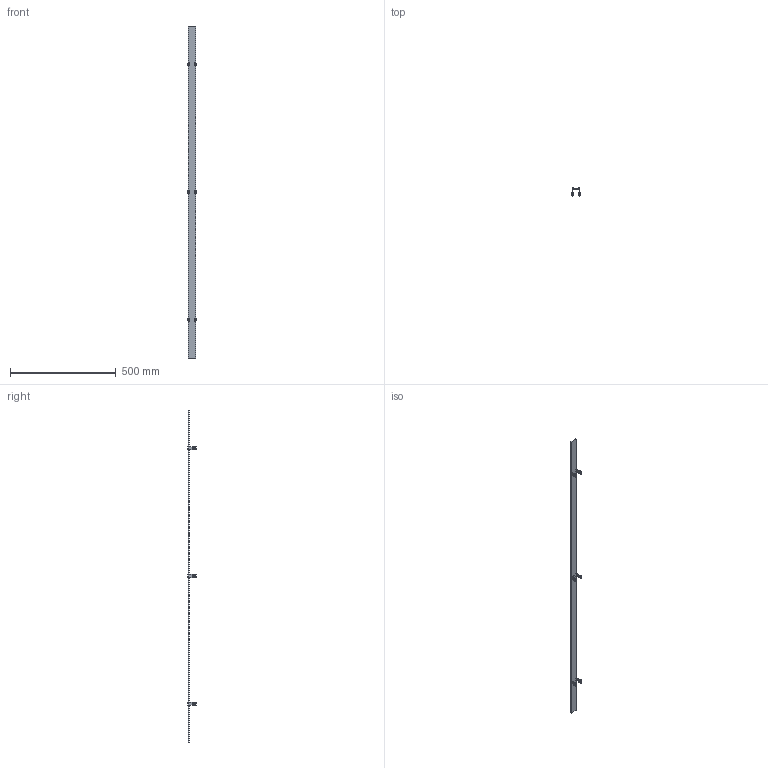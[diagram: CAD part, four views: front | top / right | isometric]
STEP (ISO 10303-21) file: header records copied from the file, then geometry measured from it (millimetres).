
FILE_DESCRIPTION((''),'2;1');
FILE_NAME('2011195_ASM','2012-09-05T',('rink'),(''),'PRO/ENGINEER BY PARAMETRIC TECHNOLOGY CORPORATION, 2011040','PRO/ENGINEER BY PARAMETRIC TECHNOLOGY CORPORATION, 2011040','');
FILE_SCHEMA(('AUTOMOTIVE_DESIGN_CC2 { 1 2 10303 214 -1 1 5 2 }'));
Length unit declared in the file: millimetre
Products named in the file (7): 2011194; 2011161; 2003292; 2011162; 2011167; 2011163_ASM; 2011195_ASM
Assembly tree (11 placements, depth 3):
  2011195_ASM
    2011194
    2011163_ASM  x6
      2011161
      2003292
      2011162
      2011167
Bounding box: 46.8 x 38 x 1568 mm (x, y, z)
Volume: 167441.3 mm3; surface area: 128129.8 mm2
Topology: 25 solids, 31 shells, 539 faces, 1365 edges, 938 vertices
Faces by surface type: plane 343, cylinder 124, cone 60, torus 12
Entity records: 5401 total; most frequent: CARTESIAN_POINT 753, DIRECTION 709, ORIENTED_EDGE 604, PRESENTATION_STYLE_ASSIGNMENT 366, STYLED_ITEM 335, CURVE_STYLE 329, EDGE_CURVE 304, VECTOR 237
